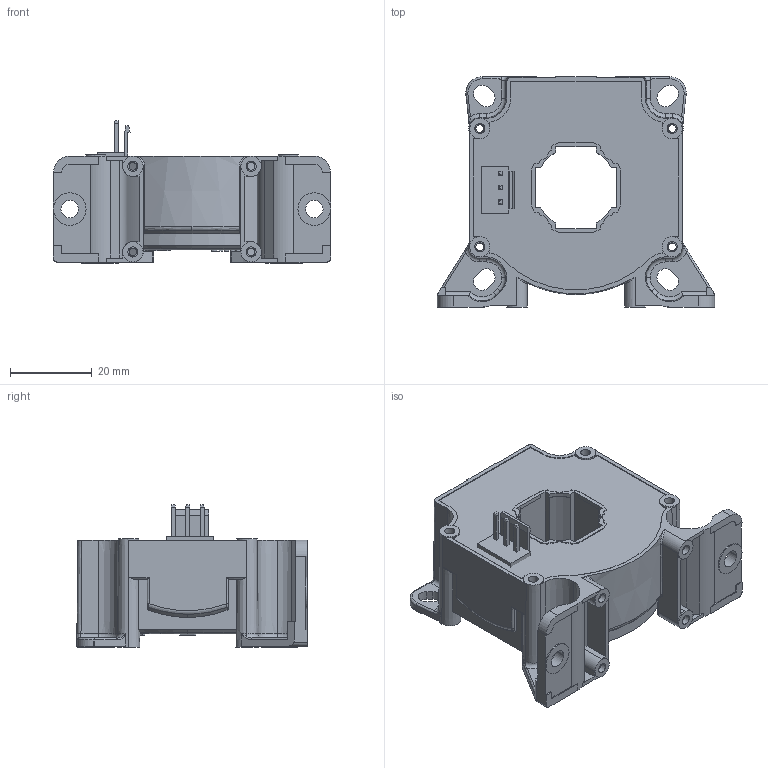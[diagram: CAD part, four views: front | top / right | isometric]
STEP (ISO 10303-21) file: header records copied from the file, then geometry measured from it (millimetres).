
FILE_DESCRIPTION(('CoCreate Modeling STEP Export'),'2;1');
FILE_NAME('LF 305-S_SP16_blackbox.stp','2010-08-17T14:57:49',(''),(''),'CoCreate Modeling STEP processor for AP214 (Solid Model)','CoCreate Modeling 16.00A 16-Aug-2008 (C) Parametric Technology GmbH','');
FILE_SCHEMA(('AUTOMOTIVE_DESIGN { 1 0 10303 214 1 1 1 1 }'));
Length unit declared in the file: millimetre
Products named in the file (5): JST; boitier; axon; boitier_blackbox; LF305-S_SP16_blackbox
Assembly tree (4 placements, depth 3):
  LF305-S_SP16_blackbox
    boitier_blackbox
      axon
      boitier
    JST
Bounding box: 68 x 56.53 x 35 mm (x, y, z)
Volume: 49417.7 mm3; surface area: 20588.3 mm2
Topology: 3 solids, 3 shells, 1093 faces, 2996 edges, 1956 vertices
Faces by surface type: plane 730, cylinder 203, cone 63, bspline 56, extrusion 22, torus 19
Entity records: 41587 total; most frequent: CARTESIAN_POINT 14961, ORIENTED_EDGE 5988, DIRECTION 4750, EDGE_CURVE 2994, VECTOR 2174, LINE 2152, VERTEX_POINT 1956, AXIS2_PLACEMENT_3D 1288
